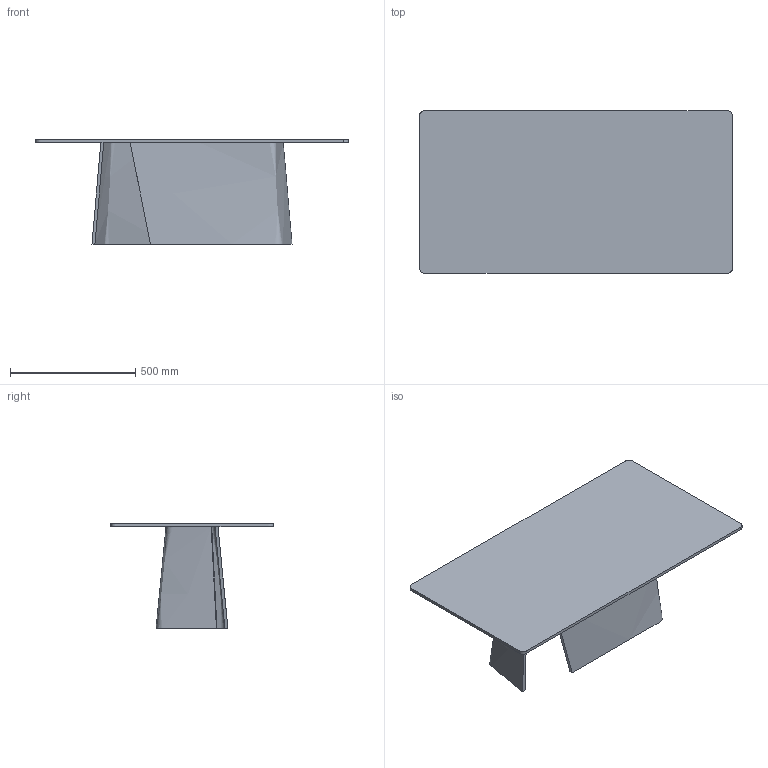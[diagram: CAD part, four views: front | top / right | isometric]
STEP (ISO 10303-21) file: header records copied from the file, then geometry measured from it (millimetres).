
FILE_DESCRIPTION(/* description */ (''),/* implementation_level */ '2;1');
FILE_NAME(/* name */ '500.501 - Accordo Tavolino rettangolare H42 125x65',/* time_stamp */ '2010-11-03T16:28:52+01:00',/* author */ (''),/* organization */ (''),/* preprocessor_version */ 'ST-DEVELOPER v10',/* originating_system */ '',/* authorisation */ '');
FILE_SCHEMA (('CONFIG_CONTROL_DESIGN'));
Length unit declared in the file: centimetre
Products named in the file (1): 1
Bounding box: 1250 x 650 x 417 mm (x, y, z)
Volume: 18152589.1 mm3; surface area: 3034017.4 mm2
Topology: 3 solids, 3 shells, 18 faces, 36 edges, 24 vertices
Faces by surface type: bspline 12, plane 6
Entity records: 726 total; most frequent: CARTESIAN_POINT 424, ORIENTED_EDGE 72, EDGE_CURVE 36, VERTEX_POINT 24, ADVANCED_FACE 18, FACE_OUTER_BOUND 18, EDGE_LOOP 18, DIRECTION 10
